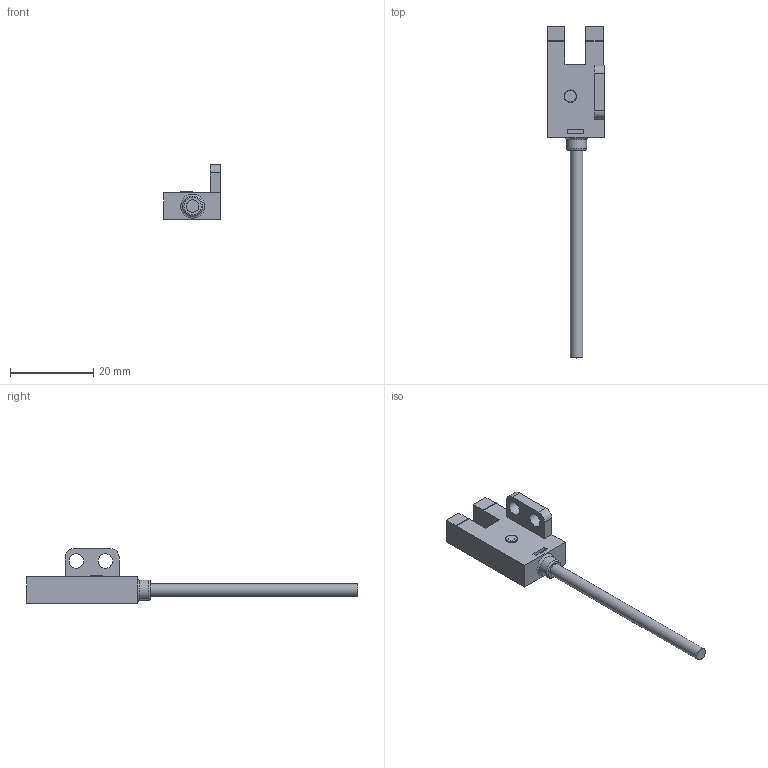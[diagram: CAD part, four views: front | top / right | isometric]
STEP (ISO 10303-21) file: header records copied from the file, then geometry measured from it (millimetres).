
FILE_DESCRIPTION (( 'STEP AP203' ), '1' );
FILE_NAME ('677.STEP', '2018-06-20T03:18:42', ( '' ), ( '' ), 'SwSTEP 2.0', 'SolidWorks 2016', '' );
FILE_SCHEMA (( 'CONFIG_CONTROL_DESIGN' ));
Length unit declared in the file: millimetre
Products named in the file (1): 677
Bounding box: 13.7 x 79.9 x 13.2 mm (x, y, z)
Volume: 2611.7 mm3; surface area: 2018.6 mm2
Topology: 1 solids, 2 shells, 60 faces, 148 edges, 98 vertices
Faces by surface type: plane 49, cylinder 8, torus 3
Full cylindrical faces by diameter (mm): 1.6 x1, 3 x2, 3.5 x2, 4.8 x1
Entity records: 1784 total; most frequent: CARTESIAN_POINT 296, DIRECTION 279, ORIENTED_EDGE 276, EDGE_CURVE 138, LINE 119, VECTOR 119, VERTEX_POINT 97, AXIS2_PLACEMENT_3D 80
